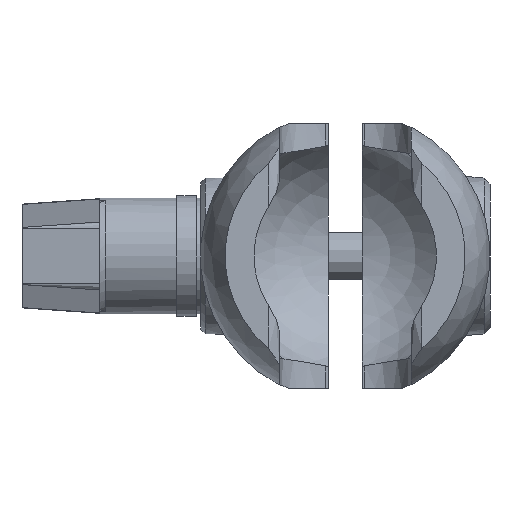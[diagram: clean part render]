
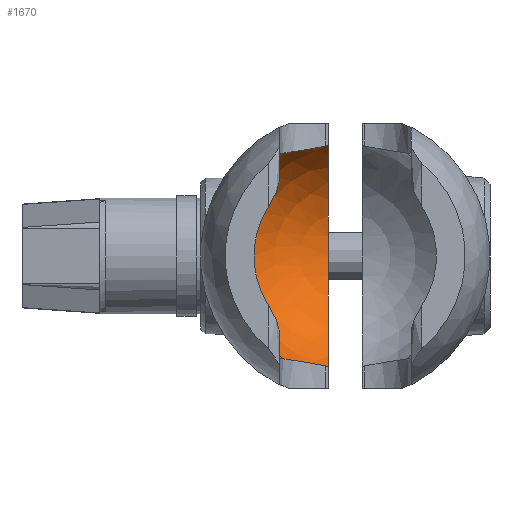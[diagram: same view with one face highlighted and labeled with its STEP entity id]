
A CAD part, front view. The second image highlights one B-rep face of the part: STEP entity #1670.
In plain terms, the highlighted spherical face has radius 20 mm.
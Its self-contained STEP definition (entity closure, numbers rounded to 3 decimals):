
#48=SPHERICAL_SURFACE('',#1796,20.);
#110=B_SPLINE_CURVE_WITH_KNOTS('',3,(#2817,#2818,#2819,#2820,#2821,#2822),
 .UNSPECIFIED.,.F.,.F.,(4,1,1,4),(0.,0.003,
0.004,0.005),.UNSPECIFIED.);
#111=B_SPLINE_CURVE_WITH_KNOTS('',3,(#2826,#2827,#2828,#2829,#2830,#2831,
#2832),.UNSPECIFIED.,.F.,.F.,(4,1,1,1,4),(0.,0.003,
0.006,0.009,0.012),.UNSPECIFIED.);
#112=B_SPLINE_CURVE_WITH_KNOTS('',3,(#2840,#2841,#2842,#2843,#2844,#2845,
#2846),.UNSPECIFIED.,.F.,.F.,(4,1,1,1,4),(0.,0.003,
0.006,0.009,0.012),
 .UNSPECIFIED.);
#113=B_SPLINE_CURVE_WITH_KNOTS('',3,(#2850,#2851,#2852,#2853,#2854,#2855),
 .UNSPECIFIED.,.F.,.F.,(4,1,1,4),(0.,0.001,
0.003,0.005),.UNSPECIFIED.);
#160=CIRCLE('',#1797,14.97);
#161=CIRCLE('',#1798,16.837);
#162=CIRCLE('',#1799,18.298);
#163=CIRCLE('',#1800,19.804);
#164=CIRCLE('',#1801,18.298);
#165=CIRCLE('',#1802,16.837);
#313=ORIENTED_EDGE('',*,*,#827,.F.);
#314=ORIENTED_EDGE('',*,*,#828,.T.);
#315=ORIENTED_EDGE('',*,*,#829,.F.);
#316=ORIENTED_EDGE('',*,*,#830,.F.);
#317=ORIENTED_EDGE('',*,*,#831,.F.);
#318=ORIENTED_EDGE('',*,*,#832,.F.);
#319=ORIENTED_EDGE('',*,*,#833,.F.);
#320=ORIENTED_EDGE('',*,*,#834,.F.);
#321=ORIENTED_EDGE('',*,*,#835,.F.);
#322=ORIENTED_EDGE('',*,*,#836,.T.);
#827=EDGE_CURVE('',#1080,#1081,#160,.T.);
#828=EDGE_CURVE('',#1080,#1082,#110,.T.);
#829=EDGE_CURVE('',#1083,#1082,#161,.F.);
#830=EDGE_CURVE('',#1084,#1083,#111,.T.);
#831=EDGE_CURVE('',#1085,#1084,#162,.F.);
#832=EDGE_CURVE('',#1086,#1085,#163,.F.);
#833=EDGE_CURVE('',#1087,#1086,#164,.F.);
#834=EDGE_CURVE('',#1088,#1087,#112,.T.);
#835=EDGE_CURVE('',#1089,#1088,#165,.F.);
#836=EDGE_CURVE('',#1089,#1081,#113,.T.);
#1080=VERTEX_POINT('',#2815);
#1081=VERTEX_POINT('',#2816);
#1082=VERTEX_POINT('',#2823);
#1083=VERTEX_POINT('',#2825);
#1084=VERTEX_POINT('',#2833);
#1085=VERTEX_POINT('',#2835);
#1086=VERTEX_POINT('',#2837);
#1087=VERTEX_POINT('',#2839);
#1088=VERTEX_POINT('',#2847);
#1089=VERTEX_POINT('',#2849);
#1393=EDGE_LOOP('',(#313,#314,#315,#316,#317,#318,#319,#320,#321,#322));
#1507=FACE_BOUND('',#1393,.T.);
#1670=ADVANCED_FACE('',(#1507),#48,.F.);
#1796=AXIS2_PLACEMENT_3D('',#2813,#2016,#2017);
#1797=AXIS2_PLACEMENT_3D('',#2814,#2018,#2019);
#1798=AXIS2_PLACEMENT_3D('',#2824,#2020,#2021);
#1799=AXIS2_PLACEMENT_3D('',#2834,#2022,#2023);
#1800=AXIS2_PLACEMENT_3D('',#2836,#2024,#2025);
#1801=AXIS2_PLACEMENT_3D('',#2838,#2026,#2027);
#1802=AXIS2_PLACEMENT_3D('',#2848,#2028,#2029);
#2016=DIRECTION('',(0.,1.,0.));
#2017=DIRECTION('',(1.,0.,0.));
#2018=DIRECTION('',(0.,1.,0.));
#2019=DIRECTION('',(-1.,0.,0.));
#2020=DIRECTION('',(1.,0.,0.));
#2021=DIRECTION('',(0.,0.,-1.));
#2022=DIRECTION('',(0.,-1.,0.));
#2023=DIRECTION('',(0.,0.,-1.));
#2024=DIRECTION('',(1.,0.,0.));
#2025=DIRECTION('',(0.,1.,0.));
#2026=DIRECTION('',(0.,-1.,0.));
#2027=DIRECTION('',(0.,0.,-1.));
#2028=DIRECTION('',(1.,0.,0.));
#2029=DIRECTION('',(0.,0.,-1.));
#2813=CARTESIAN_POINT('',(0.,-102.238,0.));
#2814=CARTESIAN_POINT('',(0.,-115.5,0.));
#2815=CARTESIAN_POINT('',(-12.573,-115.5,-8.126));
#2816=CARTESIAN_POINT('',(-12.573,-115.5,8.126));
#2817=CARTESIAN_POINT('',(-12.573,-115.5,-8.126));
#2818=CARTESIAN_POINT('',(-12.113,-115.5,-8.838));
#2819=CARTESIAN_POINT('',(-11.52,-115.265,-9.941));
#2820=CARTESIAN_POINT('',(-10.946,-114.553,-11.36));
#2821=CARTESIAN_POINT('',(-10.795,-114.034,-12.02));
#2822=CARTESIAN_POINT('',(-10.795,-113.722,-12.312));
#2823=CARTESIAN_POINT('',(-10.795,-113.722,-12.312));
#2824=CARTESIAN_POINT('',(-10.795,-102.238,0.));
#2825=CARTESIAN_POINT('',(-10.795,-101.784,-16.83));
#2826=CARTESIAN_POINT('',(-3.175,-94.164,-18.02));
#2827=CARTESIAN_POINT('',(-4.173,-94.164,-17.845));
#2828=CARTESIAN_POINT('',(-6.139,-94.554,-17.503));
#2829=CARTESIAN_POINT('',(-8.678,-96.23,-17.079));
#2830=CARTESIAN_POINT('',(-10.388,-98.764,-16.826));
#2831=CARTESIAN_POINT('',(-10.795,-100.771,-16.803));
#2832=CARTESIAN_POINT('',(-10.795,-101.784,-16.83));
#2833=CARTESIAN_POINT('',(-3.175,-94.164,-18.02));
#2834=CARTESIAN_POINT('',(0.,-94.164,0.));
#2835=CARTESIAN_POINT('',(-2.794,-94.164,-18.083));
#2836=CARTESIAN_POINT('',(-2.794,-102.238,0.));
#2837=CARTESIAN_POINT('',(-2.794,-94.164,18.083));
#2838=CARTESIAN_POINT('',(0.,-94.164,0.));
#2839=CARTESIAN_POINT('',(-3.175,-94.164,18.02));
#2840=CARTESIAN_POINT('',(-10.795,-101.784,16.83));
#2841=CARTESIAN_POINT('',(-10.795,-100.771,16.803));
#2842=CARTESIAN_POINT('',(-10.392,-98.774,16.826));
#2843=CARTESIAN_POINT('',(-8.681,-96.232,17.079));
#2844=CARTESIAN_POINT('',(-6.149,-94.557,17.501));
#2845=CARTESIAN_POINT('',(-4.172,-94.164,17.845));
#2846=CARTESIAN_POINT('',(-3.175,-94.164,18.02));
#2847=CARTESIAN_POINT('',(-10.795,-101.784,16.83));
#2848=CARTESIAN_POINT('',(-10.795,-102.238,0.));
#2849=CARTESIAN_POINT('',(-10.795,-113.722,12.312));
#2850=CARTESIAN_POINT('',(-10.795,-113.722,12.312));
#2851=CARTESIAN_POINT('',(-10.795,-114.034,12.02));
#2852=CARTESIAN_POINT('',(-10.947,-114.555,11.357));
#2853=CARTESIAN_POINT('',(-11.523,-115.266,9.935));
#2854=CARTESIAN_POINT('',(-12.112,-115.5,8.839));
#2855=CARTESIAN_POINT('',(-12.573,-115.5,8.126));
